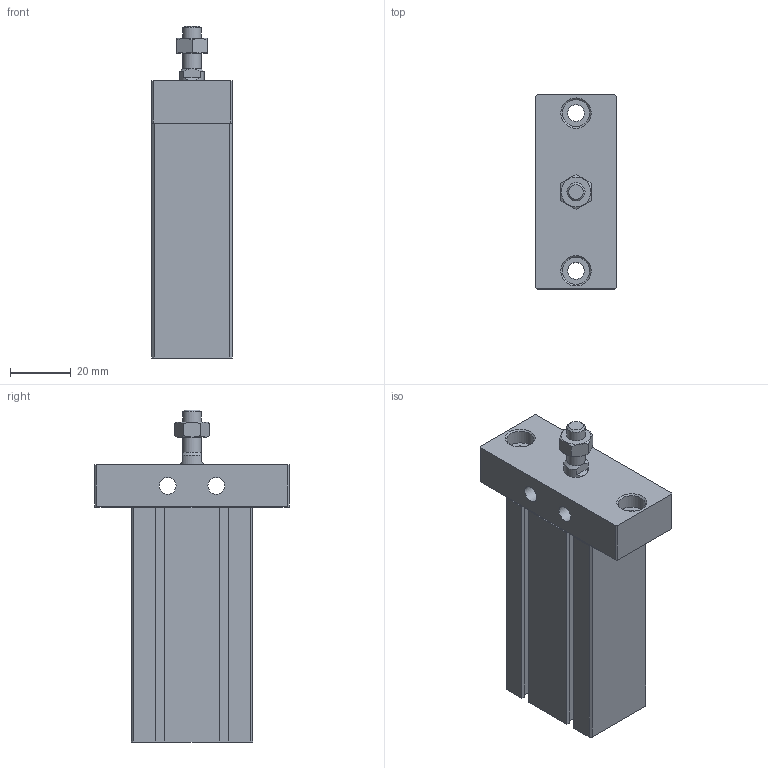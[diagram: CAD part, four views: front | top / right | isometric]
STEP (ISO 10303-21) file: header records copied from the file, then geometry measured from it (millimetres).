
FILE_DESCRIPTION((''),'2;1');
FILE_NAME('J:\3D電子目錄\氣缸\ND\ND\ND20-FB\ND20x50-FB.stp','2008-03-12T17:22:58',('66-2f-008'),(''),'Autodesk Inventor 11','Autodesk Inventor 11','');
FILE_SCHEMA(('AUTOMOTIVE_DESIGN { 1 0 10303 214 1 1 1 1 }'));
Length unit declared in the file: millimetre
Products named in the file (1): ND20-FB
Bounding box: 26.4 x 64 x 109.5 mm (x, y, z)
Volume: 95297 mm3; surface area: 23149.6 mm2
Topology: 2 solids, 2 shells, 128 faces, 330 edges, 211 vertices
Faces by surface type: plane 85, cylinder 16, bspline 14, cone 12, torus 1
Full cylindrical faces by diameter (mm): 1.5 x2, 5.5 x2, 6 x2, 9 x2, 13 x1, 21 x1
Entity records: 3810 total; most frequent: CARTESIAN_POINT 843, ORIENTED_EDGE 588, DIRECTION 572, EDGE_CURVE 294, VECTOR 214, LINE 214, VERTEX_POINT 206, EDGE_LOOP 180
